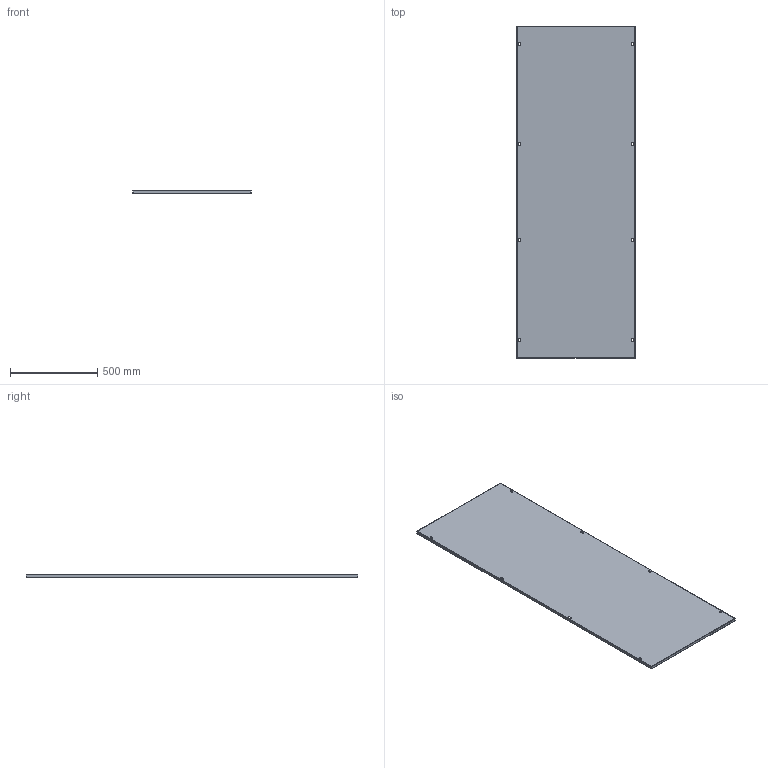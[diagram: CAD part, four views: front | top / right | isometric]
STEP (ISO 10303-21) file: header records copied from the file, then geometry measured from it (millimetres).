
FILE_DESCRIPTION (( 'STEP AP203' ), '1' );
FILE_NAME ('EUD3-080200.STEP', '2015-03-09T13:59:08', ( 'Admin' ), ( '' ), 'SwSTEP 2.0', 'SolidWorks 2014', '' );
FILE_SCHEMA (( 'CONFIG_CONTROL_DESIGN' ));
Length unit declared in the file: millimetre
Products named in the file (1): EUD3-080200
Bounding box: 680 x 1908 x 16 mm (x, y, z)
Volume: 2052709 mm3; surface area: 2745261.7 mm2
Topology: 1 solids, 1 shells, 51 faces, 136 edges, 88 vertices
Faces by surface type: plane 27, cylinder 24
Entity records: 1689 total; most frequent: CARTESIAN_POINT 306, ORIENTED_EDGE 272, DIRECTION 262, EDGE_CURVE 136, VECTOR 94, LINE 94, VERTEX_POINT 88, AXIS2_PLACEMENT_3D 84
